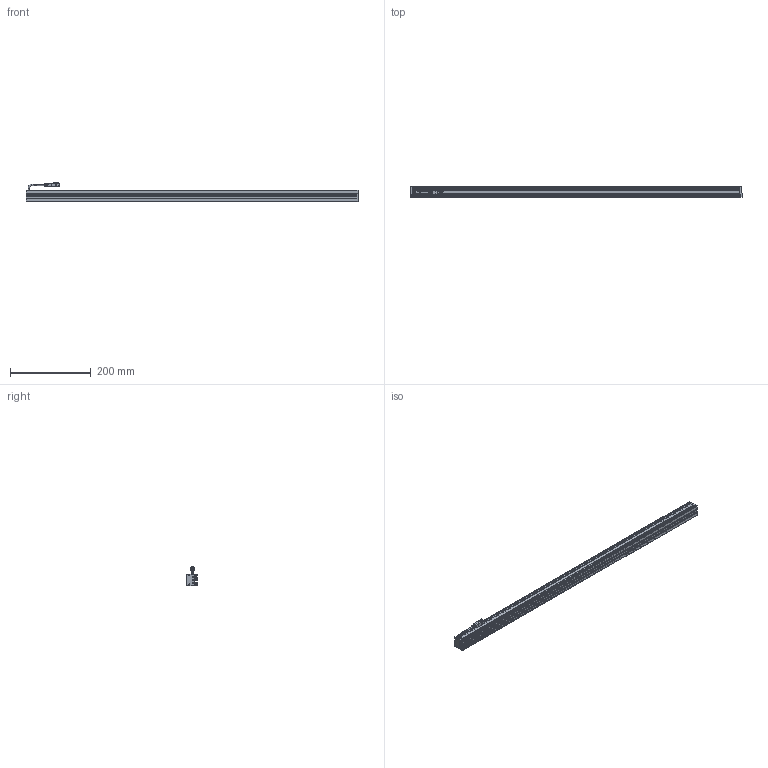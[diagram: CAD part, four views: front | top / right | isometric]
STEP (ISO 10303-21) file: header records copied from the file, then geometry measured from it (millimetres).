
FILE_DESCRIPTION (( 'STEP AP203' ), '1' );
FILE_NAME ('CK-BL82228.STEP', '2026-01-02T06:52:33', ( '' ), ( '' ), 'SwSTEP 2.0', 'SolidWorks 2022', '' );
FILE_SCHEMA (( 'CONFIG_CONTROL_DESIGN' ));
Length unit declared in the file: millimetre
Products named in the file (6): 十字沉头螺丝 M2x10; 光源线-01; CK-BL82228; CK-BL82228-002A; CK-BL82228-001A; CK-BL82228-003A
Assembly tree (11 placements, depth 2):
  CK-BL82228
    CK-BL82228-001A
    CK-BL82228-002A  x2
    CK-BL82228-003A
    光源线-01
    十字沉头螺丝 M2x10  x6
Bounding box: 822 x 27 x 47.34 mm (x, y, z)
Volume: 263824.9 mm3; surface area: 230864.3 mm2
Topology: 13 solids, 13 shells, 575 faces, 1494 edges, 950 vertices
Faces by surface type: plane 337, cylinder 172, cone 46, bspline 20
Entity records: 13997 total; most frequent: CARTESIAN_POINT 2782, ORIENTED_EDGE 2202, DIRECTION 2163, EDGE_CURVE 1101, LINE 781, VECTOR 781, VERTEX_POINT 714, AXIS2_PLACEMENT_3D 691
